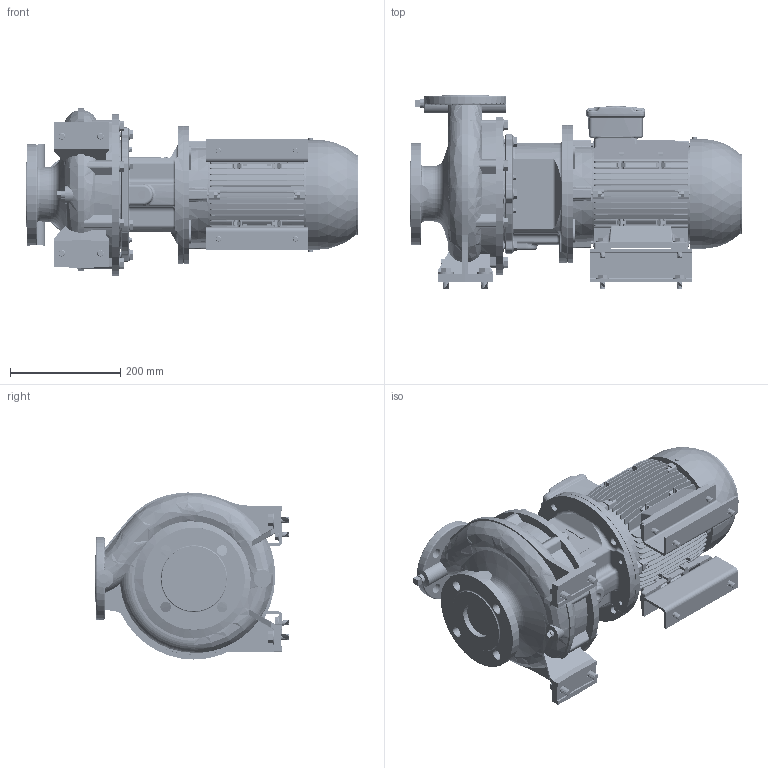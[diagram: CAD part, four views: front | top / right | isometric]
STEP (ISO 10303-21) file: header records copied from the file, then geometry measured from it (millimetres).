
FILE_DESCRIPTION (( 'STEP AP214' ), '1' );
FILE_NAME ('GSD4 40-200_2.2_(100L)_W21.STEP', '2026-06-18T05:46:20', ( '' ), ( '' ), 'SwSTEP 2.0', 'SolidWorks 2024', '' );
FILE_SCHEMA (( 'AUTOMOTIVE_DESIGN' ));
Length unit declared in the file: millimetre
Products named in the file (12): Parametric bolt_SFT-A249B; Parametric bolt and washer_SFT-A253B; 40-200-100L_ﾃﾞﾌｫﾙﾄ; GSD4 40-200_2.2_(100L)_W21; 140 x 60 Side - 271472021; Parametric bolt and washer_SFT-A299B; Parametric bolt_SFT-A253B; Parametric bolt and washer_SFT-A249B; Parametric Flat Washer_M12; 100L ALIE3_W21T_B35; Parametric bolt_SFT-A299B; Parametric Flat Washer_M10
Assembly tree (22 placements, depth 3):
  GSD4 40-200_2.2_(100L)_W21
    40-200-100L_ﾃﾞﾌｫﾙﾄ
    100L ALIE3_W21T_B35
    140 x 60 Side - 271472021  x2
    Parametric bolt and washer_SFT-A299B  x4
      Parametric bolt_SFT-A299B
      Parametric Flat Washer_M12
    Parametric bolt and washer_SFT-A253B  x4
      Parametric bolt_SFT-A253B
      Parametric Flat Washer_M10
    Parametric bolt and washer_SFT-A249B  x4
      Parametric bolt_SFT-A249B
      Parametric Flat Washer_M10
Bounding box: 602.1 x 353 x 303.03 mm (x, y, z)
Volume: 17561665 mm3; surface area: 1429800.1 mm2
Topology: 31 solids, 31 shells, 4354 faces, 11356 edges, 7308 vertices
Faces by surface type: plane 2388, cylinder 1180, torus 318, bspline 247, cone 203, sphere 18
Entity records: 185122 total; most frequent: CARTESIAN_POINT 93088, ORIENTED_EDGE 19962, DIRECTION 17778, EDGE_CURVE 9981, VERTEX_POINT 6428, LINE 6222, VECTOR 6222, AXIS2_PLACEMENT_3D 5778
